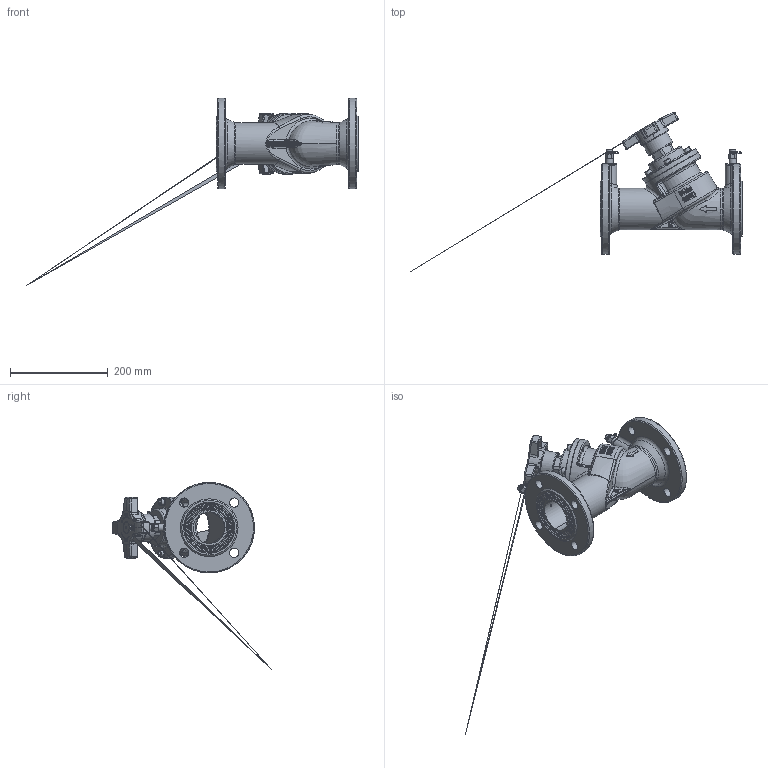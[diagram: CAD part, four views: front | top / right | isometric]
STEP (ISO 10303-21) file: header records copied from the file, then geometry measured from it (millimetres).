
FILE_DESCRIPTION(('STEP AP203'), '1');
FILE_NAME('3D_347-065-16', '', ('UNSPECIFIED'), ('UNSPECIFIED'), 'C3D Converter', 'C3D Toolkit', '');
FILE_SCHEMA(('CONFIG_CONTROL_DESIGN'));
Length unit declared in the file: millimetre
Bounding box: 678.71 x 325.31 x 382.5 mm (x, y, z)
Volume: 2033889.7 mm3; surface area: 401963.5 mm2
Topology: 2 solids, 6 shells, 2078 faces, 5626 edges, 3618 vertices
Faces by surface type: plane 704, cylinder 629, bspline 540, torus 144, cone 43, sphere 18
Full cylindrical faces by diameter (mm): 3.5 x6, 5 x2, 8 x2, 10 x8, 11 x3, 12.8 x4, 13 x6, 15 x2, 19 x8, 19.8 x3, 23 x1, 23.6 x2, 24.4 x1, 24.5 x1, 25 x1, 26 x1, 36 x1, 36.5 x1, 43 x1, 56 x1, 61.5 x1, 65 x2, 67 x1, 73.6 x1, 74 x2, 78 x1, 85 x1, 125 x2, 185 x2
Entity records: 260280 total; most frequent: CARTESIAN_POINT 197210, ORIENTED_EDGE 10950, DIRECTION 7372, EDGE_CURVE 5475, VERTEX_POINT 3614, AXIS2_PLACEMENT_3D 2642, EDGE_LOOP 2375, B_SPLINE_CURVE_WITH_KNOTS 2268
